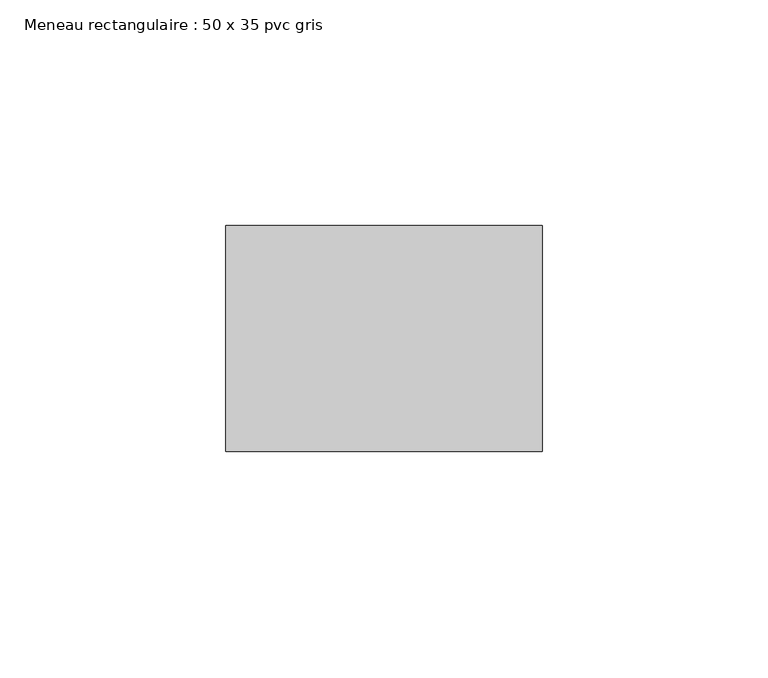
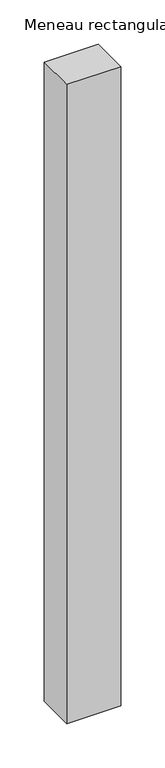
"""IFC4 building model written with IfcOpenShell, lengths in millimetres: member geometry, Meneau rectangulaire : 50 x 35 pvc gris."""

from ifc_helpers import new_model, si_unit, frame, origin, place, context, project, spatial, polyline, outline, extrude, source, transform, mapped, element, save


def meneau_rectangulaire_50_x_35_pvc_gris_908ba99d(model_context):
    return source(origin(), model_context, "Body", "SweptSolid", [
        extrude(outline(polyline([(35.0, 0.0), (35.0, -50.0), (-35.0, -50.0), (-35.0, 0.0), (35.0, 0.0)])), frame((0.0, 0.0, -878.0026781), z_axis=(0.0, 0.0, 1.0), x_axis=(1.0, 0.0, 0.0)), (0.0, 0.0, 1.0), 878.0026781),
    ])


if __name__ == "__main__":
    model = new_model("IFC4")
    model_context = context("Model", 3, world=origin())
    ifc_project = project(units=[si_unit("LENGTHUNIT", "METRE", prefix="MILLI")], contexts=[model_context])
    site = spatial("IfcSite", under=ifc_project)
    building = spatial("IfcBuilding", under=site)
    placement = place(None, origin())
    meneau_rectangulaire_50_x_35_pvc_gris_shape = meneau_rectangulaire_50_x_35_pvc_gris_908ba99d(model_context)
    element("IfcMember", 1, ObjectType="Meneau rectangulaire : 50 x 35 pvc gris", at=placement, inside=building, context=model_context, shape_type="MappedRepresentation", body=[
        mapped(meneau_rectangulaire_50_x_35_pvc_gris_shape, transform((0.0, 0.0, 0.0), x_axis=(1.0, 0.0, 0.0), y_axis=(0.0, 1.0, 0.0), z_axis=(0.0, 0.0, 1.0))),
    ])
    save(model, "model.ifc")
